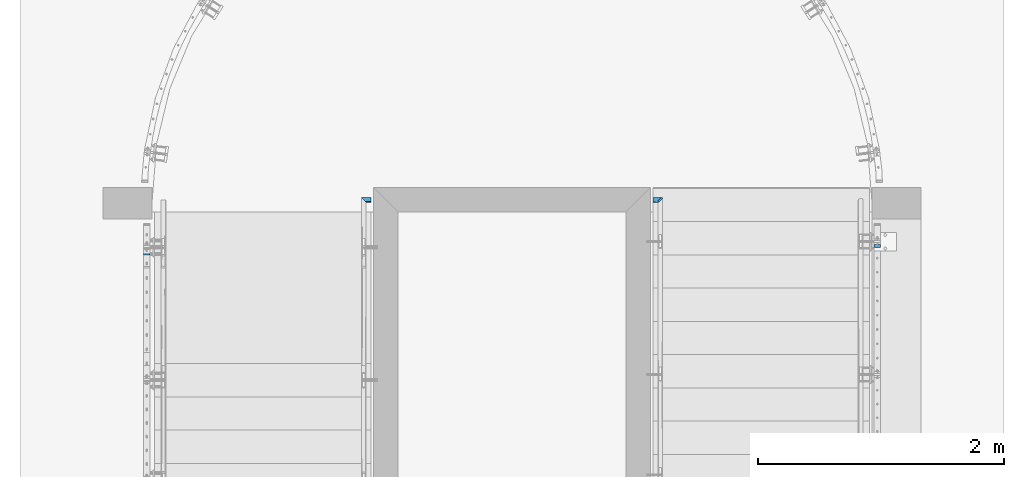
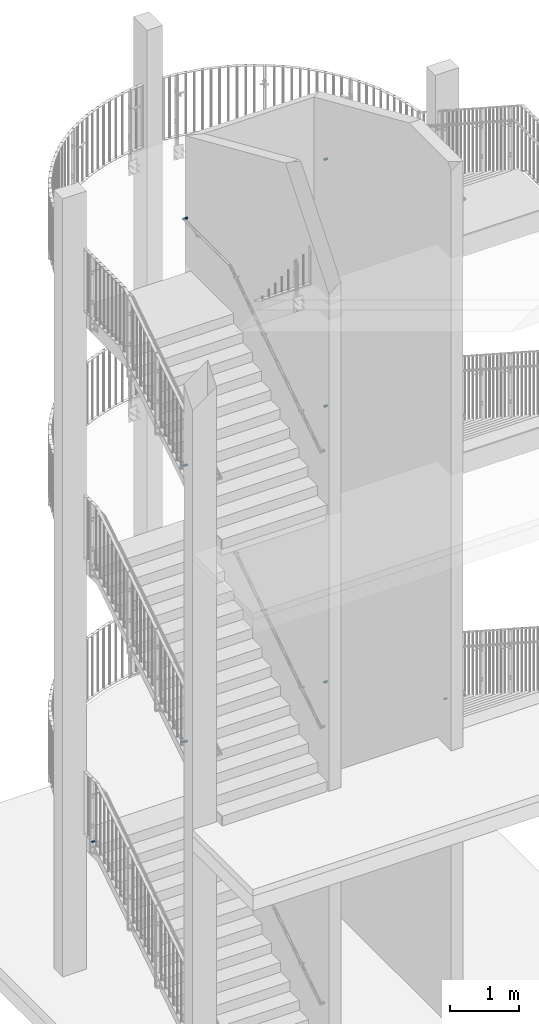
# One storey, part 102 of 296: 8 beams.
"""IFC2X3 building model written with IfcOpenShell, lengths in millimetres."""

from ifc_helpers import new_model, entity, si_unit, converted_unit, frame, origin, origin_with_axes, origin_2d, place, context, project, spatial, rectangle, circle, extrude, clip, halfspace, material, element, save


model = new_model("IFC2X3")

# Units and contexts
model_context = context("Model", 3, precision=1e-09, world=origin_with_axes())
ifc_project = project(units=[si_unit("LENGTHUNIT", "METRE", prefix="MILLI"), si_unit("AREAUNIT", "SQUARE_METRE"), si_unit("VOLUMEUNIT", "CUBIC_METRE"), converted_unit("PLANEANGLEUNIT", "DEGREE", entity("IfcPlaneAngleMeasure", 0.01745329), si_unit("PLANEANGLEUNIT", "RADIAN"), dimensions=[0, 0, 0, 0, 0, 0, 0])], contexts=[model_context])

# Site, building, storey
site_placement = place(None, origin_with_axes())
site = spatial("IfcSite", under=ifc_project, at=site_placement, Name="TZD-S?d | Treppenhausgel?nder", CompositionType="ELEMENT")
building_placement = place(site_placement, origin_with_axes())
building = spatial("IfcBuilding", under=site, at=building_placement, Name="Struktur 1", CompositionType="ELEMENT")
storey_placement = place(building_placement, origin_with_axes())
storey = spatial("IfcBuildingStorey", under=building, at=storey_placement, Name="Default Storey", CompositionType="ELEMENT", Elevation=0.0)

# Beams
ifc_material_1 = material(Name="S235JR")
beam_1_placement = place(None, frame((5894.999, -462.5, 2864.999), z_axis=(0.0, -1.0, 0.0), x_axis=(0.0, 0.0, 1.0)))
element("IfcBeam", 1, at=beam_1_placement, inside=storey, material=ifc_material_1, Name="-", ObjectType="-", context=model_context, shape_type="Clipping", body=[
    clip(extrude(rectangle(XDim=10.0, YDim=50.0, at=origin_2d()), origin(), (0.0, 0.0, 1.0), 51.207548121), halfspace(frame((-2503.209385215, 5894.999, 763.384736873), z_axis=(-0.28305571, 0.0, -0.959103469), x_axis=(0.0, 1.0, 0.0)), True)),
])
ifc_material_2 = material(Name="Buche")
beam_2_placement = place(None, frame((1680.0, -99.998999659, 12605.0), z_axis=(-1.0, 0.0, 0.0), x_axis=(0.0, -1.0, 0.0)))
element("IfcBeam", 2, at=beam_2_placement, inside=storey, material=ifc_material_2, Name="Girder", ObjectType="Girder", context=model_context, shape_type="Clipping", body=[
    clip(extrude(circle(Radius=20.0, at=origin_2d()), origin(), (0.0, 0.0, -1.0), 100.0), halfspace(frame((-910.000206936, -12605.0, 869.998792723), z_axis=(-0.707106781, 0.0, -0.707106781), x_axis=(-0.707106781, 0.0, 0.707106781)), True)),
])
beam_3_placement = place(None, frame((1680.0, -99.998999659, 8229.999), z_axis=(-1.0, 0.0, 0.0), x_axis=(0.0, -1.0, 0.0)))
element("IfcBeam", 3, at=beam_3_placement, inside=storey, material=ifc_material_2, Name="Girder", ObjectType="Girder", context=model_context, shape_type="Clipping", body=[
    clip(extrude(circle(Radius=20.0, at=origin_2d()), origin(), (0.0, 0.0, -1.0), 100.0), halfspace(frame((-910.000206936, -8229.999, 869.998792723), z_axis=(-0.707106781, 0.0, -0.707106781), x_axis=(-0.707106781, 0.0, 0.707106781)), True)),
])
beam_4_placement = place(None, frame((1680.0, -99.998999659, 3329.998), z_axis=(-1.0, 0.0, 0.0), x_axis=(0.0, -1.0, 0.0)))
element("IfcBeam", 4, at=beam_4_placement, inside=storey, material=ifc_material_2, Name="Girder", ObjectType="Girder", context=model_context, shape_type="Clipping", body=[
    clip(extrude(circle(Radius=20.0, at=origin_2d()), origin(), (0.0, 0.0, -1.0), 100.0), halfspace(frame((-910.000206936, -3329.998, 869.998792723), z_axis=(-0.707106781, 0.0, -0.707106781), x_axis=(-0.707106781, 0.0, 0.707106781)), True)),
])
beam_5_placement = place(None, frame((4069.999, -100.0, 3564.926542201), z_axis=(-1.0, 0.0, 0.0), x_axis=(0.0, -1.0, 0.0)))
element("IfcBeam", 5, at=beam_5_placement, inside=storey, material=ifc_material_2, Name="Girder", ObjectType="Girder", context=model_context, shape_type="Clipping", body=[
    clip(extrude(circle(Radius=20.0, at=origin_2d()), origin(), (0.0, 0.0, -1.0), 100.0), halfspace(frame((2482.084019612, -1895.439252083, 995.207023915), z_axis=(-0.593799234, -0.383930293, 0.707106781), x_axis=(0.765795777, 0.0, 0.643083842)), True)),
])
beam_6_placement = place(None, frame((4069.999, -100.019998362, 8457.896306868), z_axis=(-1.0, 0.0, 0.0), x_axis=(0.0, -1.0, 0.0)))
element("IfcBeam", 6, at=beam_6_placement, inside=storey, material=ifc_material_2, Name="Girder", ObjectType="Girder", context=model_context, shape_type="Clipping", body=[
    clip(extrude(circle(Radius=20.0, at=origin_2d()), origin(), (0.0, 0.0, -1.0), 100.0), halfspace(frame((3597.999796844, -6062.781926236, -335.897424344), z_axis=(-0.593498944, -0.384394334, 0.707106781), x_axis=(0.765955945, 0.0, 0.642893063)), True)),
])
beam_7_placement = place(None, frame((4069.999, -100.0, 12836.347288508), z_axis=(-1.0, 0.0, 0.0), x_axis=(0.0, -1.0, 0.0)))
element("IfcBeam", 7, at=beam_7_placement, inside=storey, material=ifc_material_2, Name="Girder", ObjectType="Girder", context=model_context, shape_type="Clipping", body=[
    clip(extrude(circle(Radius=20.0, at=origin_2d()), origin(), (0.0, 0.0, -1.0), 100.0), halfspace(frame((4596.663535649, -9795.527829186, -1525.108805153), z_axis=(-0.593561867, -0.384297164, 0.707106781), x_axis=(0.765922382, 0.0, 0.642933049)), True)),
])
beam_8_placement = place(None, frame((-45.0, -512.5, 2444.998), z_axis=(0.0, 1.0, 0.0), x_axis=(0.0, 0.0, 1.0)))
element("IfcBeam", 8, at=beam_8_placement, inside=storey, material=ifc_material_1, Name="-", ObjectType="-", context=model_context, shape_type="Clipping", body=[
    clip(extrude(rectangle(XDim=10.0, YDim=50.0, at=origin_2d()), origin(), (0.0, 0.0, -1.0), 62.670956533), halfspace(frame((-2397.360056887, 45.0, 673.457109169), z_axis=(0.283797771, 0.0, 0.958884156), x_axis=(0.0, -1.0, 0.0)), True)),
])

save(model, "model.ifc")
